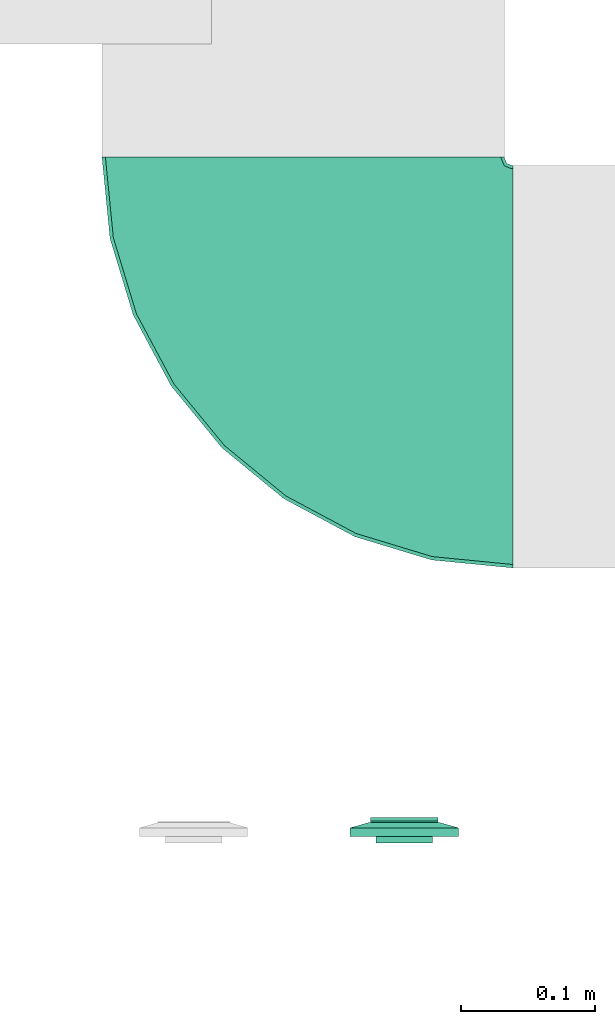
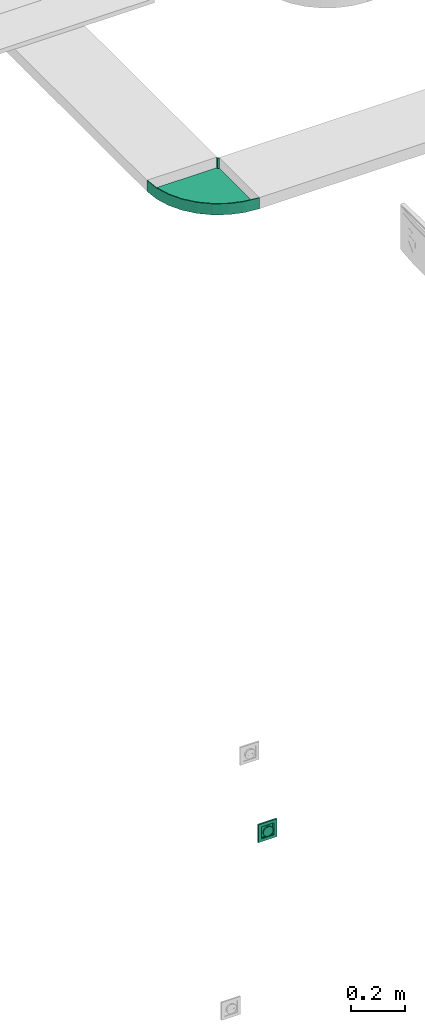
# One storey, part 35 of 153: 1 flow fitting, 1 flow terminal.
"""IFC2X3 building model written with IfcOpenShell, lengths in metres."""

from ifc_helpers import new_model, entity, si_unit, converted_unit, derived_unit, direction, frame, origin, place, context, subcontext, project, spatial, faceted_brep, source, transform, mapped, type_object, type_shapes, element, save


model = new_model("IFC2X3")

# Units and contexts
model_context = context("Model", 3, precision=1e-05, world=origin(), true_north=direction((6.12303176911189e-17, 1.0)))
body_context = subcontext(model_context, "Body", "Model", "MODEL_VIEW")
ifc_project = project(units=[si_unit("LENGTHUNIT", "METRE"), si_unit("AREAUNIT", "SQUARE_METRE"), si_unit("VOLUMEUNIT", "CUBIC_METRE"), converted_unit("PLANEANGLEUNIT", "DEGREE", entity("IfcRatioMeasure", 0.0174532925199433), si_unit("PLANEANGLEUNIT", "RADIAN"), dimensions=[0, 0, 0, 0, 0, 0, 0]), si_unit("MASSUNIT", "GRAM", prefix="KILO"), derived_unit("MASSDENSITYUNIT", [(si_unit("MASSUNIT", "GRAM", prefix="KILO"), 1), (si_unit("LENGTHUNIT", "METRE"), -3)]), si_unit("TIMEUNIT", "SECOND"), si_unit("FREQUENCYUNIT", "HERTZ"), si_unit("THERMODYNAMICTEMPERATUREUNIT", "DEGREE_CELSIUS"), derived_unit("THERMALTRANSMITTANCEUNIT", [(si_unit("MASSUNIT", "GRAM", prefix="KILO"), 1), (si_unit("THERMODYNAMICTEMPERATUREUNIT", "KELVIN"), -1), (si_unit("TIMEUNIT", "SECOND"), -3)]), derived_unit("VOLUMETRICFLOWRATEUNIT", [(si_unit("LENGTHUNIT", "METRE"), 3), (si_unit("TIMEUNIT", "SECOND"), -1)]), si_unit("ELECTRICCURRENTUNIT", "AMPERE"), si_unit("ELECTRICVOLTAGEUNIT", "VOLT"), si_unit("POWERUNIT", "WATT"), si_unit("FORCEUNIT", "NEWTON"), si_unit("ILLUMINANCEUNIT", "LUX"), si_unit("LUMINOUSFLUXUNIT", "LUMEN"), si_unit("LUMINOUSINTENSITYUNIT", "CANDELA"), derived_unit("USERDEFINED", [(si_unit("MASSUNIT", "GRAM", prefix="KILO"), -1), (si_unit("LENGTHUNIT", "METRE"), -2), (si_unit("TIMEUNIT", "SECOND"), 3), (si_unit("LUMINOUSFLUXUNIT", "LUMEN"), 1)]), derived_unit("LINEARVELOCITYUNIT", [(si_unit("LENGTHUNIT", "METRE"), 1), (si_unit("TIMEUNIT", "SECOND"), -1)]), si_unit("PRESSUREUNIT", "PASCAL"), derived_unit("USERDEFINED", [(si_unit("LENGTHUNIT", "METRE"), -2), (si_unit("MASSUNIT", "GRAM", prefix="KILO"), 1), (si_unit("TIMEUNIT", "SECOND"), -2)])], contexts=[model_context])

# Site, building, storey
site_placement = place(None, origin())
site = spatial("IfcSite", under=ifc_project, at=site_placement, Name="Default", CompositionType="ELEMENT")
building_placement = place(site_placement, origin())
building = spatial("IfcBuilding", under=site, at=building_placement, CompositionType="ELEMENT")
storey_placement = place(building_placement, frame((0.0, 0.0, -4.62)))
storey = spatial("IfcBuildingStorey", under=building, at=storey_placement, Name="S02", CompositionType="ELEMENT", Elevation=-4.62)

# Flow terminal
light_fixture_type = type_object("IfcLightFixtureType", Name="SA IP44", PredefinedType="NOTDEFINED")
shared_shape_1 = source(origin(), body_context, "Body", "Brep", [
    faceted_brep([(0.0, 0.0209999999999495, -0.00460000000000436), (0.00543519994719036, 0.02028444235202, -0.00460000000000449), (0.0105000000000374, 0.0181865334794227, -0.00460000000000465), (0.0148492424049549, 0.014849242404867, -0.00460000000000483), (0.0181865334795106, 0.0104999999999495, -0.00460000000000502), (0.0202844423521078, 0.00543519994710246, -0.00460000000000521), (0.0210000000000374, 0.0, -0.00460000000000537), (0.0202844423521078, -0.00543519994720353, -0.00460000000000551), (0.0181865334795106, -0.0105000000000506, -0.0046000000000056), (0.0148492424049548, -0.0148492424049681, -0.00460000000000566), (0.0105000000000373, -0.0181865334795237, -0.00460000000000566), (0.00543519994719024, -0.0202844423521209, -0.00460000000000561), (0.0, -0.0210000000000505, -0.00460000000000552), (-0.00543519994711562, -0.0202844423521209, -0.00460000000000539), (-0.0104999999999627, -0.0181865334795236, -0.00460000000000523), (-0.0148492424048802, -0.0148492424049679, -0.00460000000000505), (-0.0181865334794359, -0.0105000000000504, -0.00460000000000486), (-0.0202844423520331, -0.00543519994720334, -0.00460000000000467), (-0.0209999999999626, 0.0, -0.00460000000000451), (-0.020284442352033, 0.00543519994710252, -0.00460000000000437), (-0.0181865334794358, 0.0104999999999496, -0.00460000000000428), (-0.0148492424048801, 0.0148492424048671, -0.00460000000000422), (-0.0104999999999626, 0.0181865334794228, -0.00460000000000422), (-0.00543519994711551, 0.02028444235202, -0.00460000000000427), (-0.020284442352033, -0.00543519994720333, 0.0), (-0.0209999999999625, 0.0, 0.0), (-0.0181865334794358, -0.0105000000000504, 0.0), (-0.0104999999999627, -0.0181865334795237, 0.0), (-0.0148492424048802, -0.0148492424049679, 0.0), (-0.00543519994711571, -0.020284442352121, 0.0), (0.0, -0.0210000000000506, 0.0), (0.00543519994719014, -0.0202844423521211, 0.0), (0.0105000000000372, -0.018186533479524, 0.0), (0.0181865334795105, -0.0105000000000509, 0.0), (0.0148492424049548, -0.0148492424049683, 0.0), (0.0202844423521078, -0.00543519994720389, 0.0), (0.0210000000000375, 0.0, 0.0), (0.0202844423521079, 0.00543519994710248, 0.0), (0.0181865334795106, 0.0104999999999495, 0.0), (0.0105000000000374, 0.0181865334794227, 0.0), (0.0148492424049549, 0.014849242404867, 0.0), (0.00543519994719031, 0.0202844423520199, 0.0), (0.0, 0.0209999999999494, 0.0), (-0.00543519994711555, 0.0202844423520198, 0.0), (-0.0104999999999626, 0.0181865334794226, 0.0), (-0.0181865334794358, 0.0104999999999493, 0.0), (-0.0148492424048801, 0.0148492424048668, 0.0), (-0.020284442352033, 0.00543519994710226, 0.0)], [[[0, 1, 2, 3, 4, 5, 6, 7, 8, 9, 10, 11, 12, 13, 14, 15, 16, 17, 18, 19, 20, 21, 22, 23]], [[17, 24, 25, 18]], [[16, 26, 24, 17]], [[27, 28, 15, 14]], [[16, 15, 28, 26]], [[29, 27, 14, 13]], [[30, 29, 13, 12]], [[11, 31, 30, 12]], [[10, 32, 31, 11]], [[33, 34, 9, 8]], [[10, 9, 34, 32]], [[35, 33, 8, 7]], [[36, 35, 7, 6]], [[5, 37, 36, 6]], [[4, 38, 37, 5]], [[39, 40, 3, 2]], [[4, 3, 40, 38]], [[41, 39, 2, 1]], [[42, 41, 1, 0]], [[23, 43, 42, 0]], [[22, 44, 43, 23]], [[45, 46, 21, 20]], [[22, 21, 46, 44]], [[47, 45, 20, 19]], [[25, 47, 19, 18]], [[25, 24, 26, 28, 27, 29, 30, 31, 32, 34, 33, 35, 36, 37, 38, 40, 39, 41, 42, 43, 44, 46, 45, 47]]]),
    faceted_brep([(0.0270000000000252, 0.026999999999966, 0.0103999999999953), (-0.0269999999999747, 0.026999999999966, 0.0103999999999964), (-0.0269999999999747, -0.0270000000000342, 0.0103999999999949), (0.0270000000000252, -0.0270000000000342, 0.0103999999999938), (-0.0254999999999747, 0.0258096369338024, 0.0103999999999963), (0.0255000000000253, 0.0258096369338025, 0.0103999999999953), (0.0255000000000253, -0.0255000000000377, 0.0103999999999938), (-0.0254999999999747, -0.0255000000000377, 0.0103999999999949), (0.0270000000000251, 0.0269999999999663, 0.00199999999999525), (0.0270000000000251, -0.0270000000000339, 0.00199999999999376), (-0.0269999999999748, -0.0270000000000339, 0.00199999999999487), (-0.0269999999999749, 0.0269999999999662, 0.00199999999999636), (0.0255000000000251, 0.0258096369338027, 0.00199999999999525), (-0.0254999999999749, 0.0258096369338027, 0.0019999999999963), (-0.0254999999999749, -0.0255000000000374, 0.00199999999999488), (0.0255000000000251, -0.0255000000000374, 0.00199999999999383)], [[[0, 1, 2, 3], [4, 5, 6, 7]], [[8, 9, 10, 11], [12, 13, 14, 15]], [[1, 0, 8, 11]], [[2, 1, 11, 10]], [[3, 2, 10, 9]], [[0, 3, 9, 8]], [[12, 5, 4, 13]], [[13, 4, 7, 14]], [[14, 7, 6, 15]], [[5, 12, 15, 6]]]),
    faceted_brep([(0.0250000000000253, 0.0253096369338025, 0.00659999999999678), (0.0250000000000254, 0.0253096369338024, 0.0117095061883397), (0.0250000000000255, -0.0245000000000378, 0.0142232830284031), (0.0250000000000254, -0.0250000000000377, 0.0117095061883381), (0.0250000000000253, -0.0250000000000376, 0.00659999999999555), (-0.0249999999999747, 0.0253096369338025, 0.00659999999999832), (-0.0249999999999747, -0.0250000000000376, 0.00659999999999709), (-0.0249999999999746, -0.0250000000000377, 0.0117095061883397), (-0.0249999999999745, -0.0245000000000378, 0.0142232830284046), (-0.0249999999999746, 0.0253096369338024, 0.0117095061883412)], [[[0, 1, 2, 3, 4]], [[5, 6, 7, 8, 9]], [[1, 0, 5, 9]], [[2, 1, 9, 8]], [[3, 2, 8, 7]], [[4, 3, 7, 6]], [[0, 4, 6, 5]]]),
    faceted_brep([(0.027000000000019, 0.0269999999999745, 0.00659999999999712), (-0.0269999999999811, 0.0269999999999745, 0.00659999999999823), (-0.026999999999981, -0.0270000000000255, 0.00659999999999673), (0.027000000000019, -0.0270000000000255, 0.00659999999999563), (0.040350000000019, 0.0403499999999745, 0.00659999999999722), (0.040350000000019, -0.0403500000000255, 0.00659999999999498), (-0.0403499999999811, -0.0403500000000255, 0.00659999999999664), (-0.0403499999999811, 0.0403499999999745, 0.00659999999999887), (-0.026999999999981, 0.0269999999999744, 0.0103999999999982), (0.027000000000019, 0.0269999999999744, 0.0103999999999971), (-0.026999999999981, -0.0270000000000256, 0.0103999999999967), (0.027000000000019, -0.0270000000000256, 0.0103999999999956)], [[[0, 1, 2, 3], [4, 5, 6, 7]], [[4, 7, 8, 9]], [[7, 6, 10, 8]], [[6, 5, 11, 10]], [[5, 4, 9, 11]], [[0, 9, 8, 1]], [[1, 8, 10, 2]], [[2, 10, 11, 3]], [[9, 0, 3, 11]]], outer=[[False, True], [True], [True], [True], [True], [True], [True], [True], [True]]),
    faceted_brep([(0.040350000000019, 0.0403499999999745, 0.00659999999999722), (-0.0403499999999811, 0.0403499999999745, 0.00659999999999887), (-0.0403499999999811, -0.0403500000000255, 0.00659999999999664), (0.040350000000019, -0.0403500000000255, 0.00659999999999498), (-0.0269999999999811, 0.0269999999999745, 0.00659999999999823), (0.0270000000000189, 0.0269999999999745, 0.00659999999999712), (0.0270000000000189, -0.0270000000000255, 0.00659999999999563), (-0.0269999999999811, -0.0270000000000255, 0.00659999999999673), (0.0403500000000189, 0.0403499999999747, 0.0), (0.0403500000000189, -0.0403500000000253, 0.0), (-0.0403499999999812, -0.0403500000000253, 0.0), (-0.0403499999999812, 0.0403499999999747, 0.0), (0.0270000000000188, 0.0269999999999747, 0.0), (-0.0269999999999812, 0.0269999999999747, 0.0), (-0.0269999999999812, -0.0270000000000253, 0.0), (0.0270000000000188, -0.0270000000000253, 0.0)], [[[0, 1, 2, 3], [4, 5, 6, 7]], [[8, 9, 10, 11], [12, 13, 14, 15]], [[1, 0, 8, 11]], [[2, 1, 11, 10]], [[3, 2, 10, 9]], [[0, 3, 9, 8]], [[12, 5, 4, 13]], [[13, 4, 7, 14]], [[14, 7, 6, 15]], [[5, 12, 15, 6]]]),
])
type_shapes(light_fixture_type, [shared_shape_1])
flow_terminal_placement = place(storey_placement, frame((36.308743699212, -194.741320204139, 0.880000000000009), z_axis=(0.0, 1.0, 0.0), x_axis=(-1.0, 0.0, 0.0)))
element("IfcFlowTerminal", 1, at=flow_terminal_placement, inside=storey, type_object=light_fixture_type, Name="INT_Inter SA:SA IP44", ObjectType="INT_Inter SA:SA IP44", context=body_context, shape_type="MappedRepresentation", body=[
    mapped(shared_shape_1, transform((0.0, 0.0, 0.0), scale=1.0)),
])

# Flow fitting
cable_carrier_fitting_type = type_object("IfcCableCarrierFittingType", Name="E_Bend_Horizontal_CA_Generic_MEPcontent", PredefinedType="NOTDEFINED")
shared_shape_2 = source(origin(), body_context, "Body", "Brep", [
    faceted_brep([(-0.149999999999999, 0.15507999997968, -0.025), (-0.149999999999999, 0.15507999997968, 0.025), (-0.147460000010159, 0.15507999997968, 0.025), (-0.147460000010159, 0.15507999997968, -0.02246000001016), (0.147460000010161, 0.15507999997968, -0.02246000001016), (0.147460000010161, 0.15507999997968, 0.025), (0.150000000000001, 0.15507999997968, 0.025), (0.150000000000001, 0.15507999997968, -0.025), (-0.155079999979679, -0.15, -0.025), (-0.155079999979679, -0.15, 0.025), (-0.155079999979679, -0.14746000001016, 0.025), (-0.155079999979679, -0.14746000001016, -0.02246000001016), (-0.155079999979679, 0.14746000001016, -0.02246000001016), (-0.155079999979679, 0.14746000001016, 0.025), (-0.155079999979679, 0.15, 0.025), (-0.155079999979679, 0.15, -0.025), (-0.15148789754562, 0.151487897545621, -0.025), (-0.15148789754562, 0.151487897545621, 0.025), (-0.14969184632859, 0.149691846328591, 0.025), (-0.0955618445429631, -0.144137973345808, 0.025), (-0.0383309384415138, -0.12677716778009, 0.025), (0.0144133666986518, -0.0985847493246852, 0.025), (0.0606441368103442, -0.0606441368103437, 0.025), (0.0985847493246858, -0.0144133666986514, 0.025), (0.126777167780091, 0.0383309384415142, 0.025), (0.144137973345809, 0.0955618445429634, 0.025), (0.141646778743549, 0.0960573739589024, 0.025), (0.124430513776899, 0.0393029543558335, 0.025), (0.0964728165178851, -0.013002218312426, 0.025), (0.0588480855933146, -0.058848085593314, 0.025), (0.0130022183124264, -0.0964728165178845, 0.025), (-0.0393029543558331, -0.124430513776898, 0.025), (-0.096057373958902, -0.141646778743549, 0.025), (-0.14969184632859, 0.149691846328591, -0.02246000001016), (-0.0960573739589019, -0.141646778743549, -0.02246000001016), (-0.0393029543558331, -0.124430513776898, -0.02246000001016), (0.0130022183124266, -0.0964728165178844, -0.02246000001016), (0.0588480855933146, -0.0588480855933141, -0.02246000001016), (0.096472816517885, -0.0130022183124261, -0.02246000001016), (0.124430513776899, 0.0393029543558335, -0.02246000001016), (0.141646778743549, 0.0960573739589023, -0.02246000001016), (-0.0955618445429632, -0.144137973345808, -0.025), (-0.0383309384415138, -0.12677716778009, -0.025), (0.0144133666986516, -0.0985847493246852, -0.025), (0.0606441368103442, -0.0606441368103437, -0.025), (0.0985847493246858, -0.0144133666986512, -0.025), (0.126777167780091, 0.0383309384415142, -0.025), (0.144137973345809, 0.0955618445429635, -0.025)], [[[0, 1, 2, 3, 4, 5, 6, 7]], [[8, 9, 10, 11, 12, 13, 14, 15]], [[16, 15, 14, 17]], [[17, 1, 0, 16]], [[13, 18, 2, 1, 17, 14]], [[10, 9, 19, 20, 21, 22, 23, 24, 25, 6, 5, 26, 27, 28, 29, 30, 31, 32]], [[13, 12, 33, 18]], [[18, 33, 3, 2]], [[12, 11, 34, 35, 36, 37, 38, 39, 40, 4, 3, 33]], [[34, 11, 10, 32]], [[31, 35, 34, 32]], [[35, 31, 30, 36]], [[29, 37, 36, 30]], [[39, 38, 28, 27]], [[40, 39, 27, 26]], [[4, 40, 26, 5]], [[29, 28, 38, 37]], [[19, 9, 8, 41]], [[41, 42, 20, 19]], [[43, 21, 20, 42]], [[44, 22, 21, 43]], [[23, 45, 46, 24]], [[24, 46, 47, 25]], [[25, 47, 7, 6]], [[44, 45, 23, 22]], [[41, 8, 15, 16, 0, 7, 47, 46, 45, 44, 43, 42]]]),
    faceted_brep([(0.150000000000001, 0.155079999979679, -0.025), (0.150000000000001, 0.155079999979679, 0.025), (0.147460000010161, 0.155079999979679, 0.025), (0.147460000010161, 0.155079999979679, -0.02246000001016), (-0.147460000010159, 0.15507999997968, -0.02246000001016), (-0.147460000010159, 0.15507999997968, 0.025), (-0.149999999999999, 0.15507999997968, 0.025), (-0.149999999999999, 0.15507999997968, -0.025), (0.150000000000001, 0.156079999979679, -0.025), (-0.149999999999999, 0.15607999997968, -0.025), (-0.149999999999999, 0.15607999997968, 0.025), (-0.147460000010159, 0.15607999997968, 0.025), (-0.147460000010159, 0.15607999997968, -0.02246000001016), (0.147460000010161, 0.156079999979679, -0.02246000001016), (0.147460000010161, 0.156079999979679, 0.025), (0.150000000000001, 0.156079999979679, 0.025)], [[[0, 1, 2, 3, 4, 5, 6, 7]], [[8, 9, 10, 11, 12, 13, 14, 15]], [[1, 0, 8, 15]], [[2, 1, 15, 14]], [[3, 2, 14, 13]], [[4, 3, 13, 12]], [[5, 4, 12, 11]], [[6, 5, 11, 10]], [[7, 6, 10, 9]], [[0, 7, 9, 8]]]),
    faceted_brep([(-0.155079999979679, 0.15, -0.025), (-0.155079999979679, 0.15, 0.025), (-0.155079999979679, 0.14746000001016, 0.025), (-0.155079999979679, 0.14746000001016, -0.02246000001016), (-0.155079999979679, -0.14746000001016, -0.02246000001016), (-0.155079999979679, -0.14746000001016, 0.025), (-0.155079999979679, -0.15, 0.025), (-0.155079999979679, -0.15, -0.025), (-0.156079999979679, 0.15, -0.025), (-0.156079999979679, -0.15, -0.025), (-0.156079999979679, -0.15, 0.025), (-0.156079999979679, -0.14746000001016, 0.025), (-0.156079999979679, -0.14746000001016, -0.02246000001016), (-0.156079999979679, 0.14746000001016, -0.02246000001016), (-0.156079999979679, 0.14746000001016, 0.025), (-0.156079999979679, 0.15, 0.025)], [[[0, 1, 2, 3, 4, 5, 6, 7]], [[8, 9, 10, 11, 12, 13, 14, 15]], [[1, 0, 8, 15]], [[2, 1, 15, 14]], [[3, 2, 14, 13]], [[4, 3, 13, 12]], [[5, 4, 12, 11]], [[6, 5, 11, 10]], [[7, 6, 10, 9]], [[0, 7, 9, 8]]]),
])
type_shapes(cable_carrier_fitting_type, [shared_shape_2])
flow_fitting_placement = place(storey_placement, frame((36.2335641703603, -194.390915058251, 3.57499980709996), z_axis=(0.0, 0.0, 1.0), x_axis=(0.0, -1.0, 0.0)))
element("IfcFlowFitting", 2, at=flow_fitting_placement, inside=storey, type_object=cable_carrier_fitting_type, Name="E_Bend_Horizontal_CA_Generic_MEPcontent:E_Bend_Horizontal_CA_Generic_MEPcontent", ObjectType="E_Bend_Horizontal_CA_Generic_MEPcontent:E_Bend_Horizontal_CA_Generic_MEPcontent", context=body_context, shape_type="MappedRepresentation", body=[
    mapped(shared_shape_2, transform((0.0, 0.0, 0.0), scale=1.0)),
])

save(model, "model.ifc")
